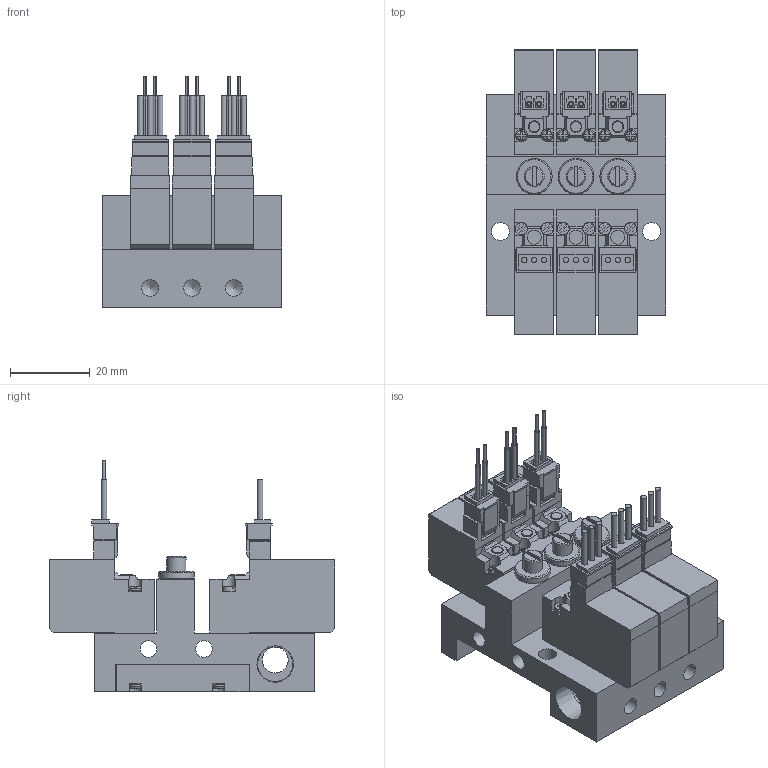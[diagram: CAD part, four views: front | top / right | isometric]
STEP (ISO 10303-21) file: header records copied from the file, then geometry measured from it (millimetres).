
FILE_DESCRIPTION(('STEP AP203'),'1');
FILE_NAME('1-L-4EZ-M03.stp','2025-05-09T01:22:13',(' '),(' '),'Spatial InterOp 3D',' ',' ');
FILE_SCHEMA(('CONFIG_CONTROL_DESIGN'));
Length unit declared in the file: millimetre
Products named in the file (35): PV1※1-L-4EZ-M03; BODY; PLATE; NEEDLE; BOLT; SOLENOID VALVE VOLTAGE PV; 42; 45; 48; 51; SOLENOID VALVE PV101-W
Assembly tree (34 placements, depth 3):
  PV1※1-L-4EZ-M03
    BODY
    PLATE
    PLATE
    NEEDLE
    BOLT
    BOLT
    BOLT
    BOLT
    BOLT
    BOLT
    SOLENOID VALVE VOLTAGE PV
      42
      45
      48
      51
    NEEDLE
    SOLENOID VALVE VOLTAGE PV
      42
      45
      48
      51
    NEEDLE
    SOLENOID VALVE VOLTAGE PV
      42
      45
      48
      51
    PLATE
    BOLT
    BOLT
    BOLT
    SOLENOID VALVE PV101-W
    SOLENOID VALVE PV101-W
    SOLENOID VALVE PV101-W
Bounding box: 45 x 71.8 x 58.25 mm (x, y, z)
Volume: 66843.5 mm3; surface area: 34452.5 mm2
Topology: 31 solids, 31 shells, 1183 faces, 3299 edges, 2249 vertices
Faces by surface type: plane 877, cylinder 208, torus 48, bspline 30, cone 20
Full cylindrical faces by diameter (mm): 1.4 x9, 2 x9, 3 x15, 3.5 x3, 4.2 x8, 4.5 x2, 5 x3, 6.5 x1, 8.797 x2, 9 x3
Entity records: 39579 total; most frequent: CARTESIAN_POINT 7187, DIRECTION 6407, ORIENTED_EDGE 6320, EDGE_CURVE 3160, VERTEX_POINT 2200, LINE 2151, VECTOR 2151, AXIS2_PLACEMENT_3D 2128
